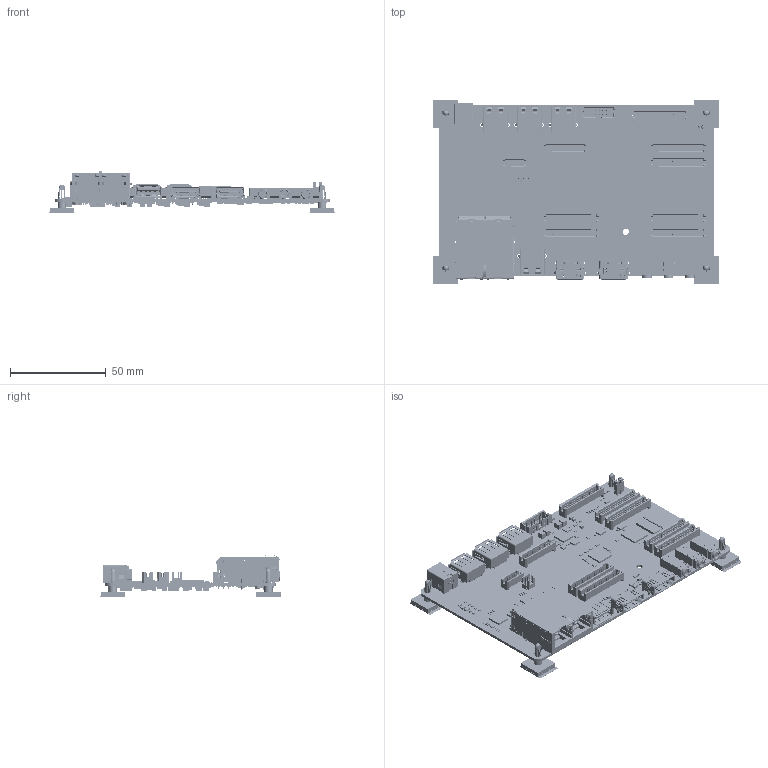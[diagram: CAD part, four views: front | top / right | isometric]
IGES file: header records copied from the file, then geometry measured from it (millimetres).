
Start section: SolidWorks IGES file using analytic representation for surfaces
Global section: file name: I:\My Drive\shared-public\models\piSmasher_rev4.1.IGS; native system: SolidWorks 2013; preprocessor: SolidWorks 2013; author: ryanlcousins; date: 180609.122549; units: millimetre
Bounding box: 149 x 96.06 x 22.32 mm (x, y, z)
Surface area: 74777.4 mm2 (no closed solid volume)
Topology: 0 solids, 0 shells, 16473 faces, 119154 edges, 118908 vertices
Faces by surface type: bspline 12726, revolution 3747
